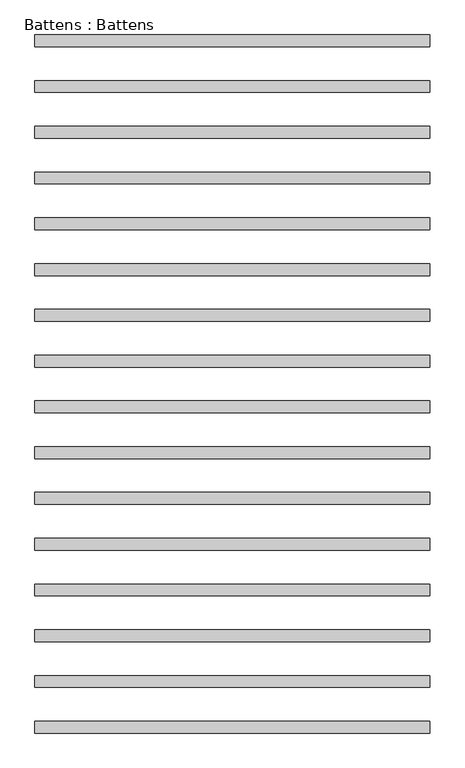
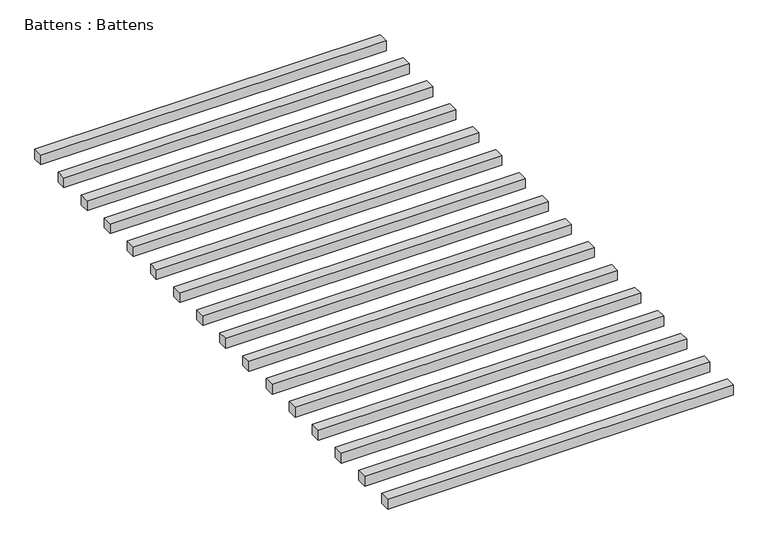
"""IFC4 building model written with IfcOpenShell, lengths in millimetres: proxy geometry, Battens : Battens."""

from ifc_helpers import new_model, si_unit, origin, origin_with_axes, place, context, project, spatial, polyline, outline, extrude, source, transform, mapped, element, save


def battens_battens_8fe84e2e(model_context):
    return source(origin(), model_context, "Body", "SweptSolid", [
        extrude(outline(polyline([(1337.0, -2305.0), (1337.0, -2345.0), (0.0, -2345.0), (0.0, -2305.0), (1337.0, -2305.0)])), origin_with_axes(), (0.0, 0.0, 1.0), 40.0),
        extrude(outline(polyline([(1337.0, -2150.0), (1337.0, -2190.0), (0.0, -2190.0), (0.0, -2150.0), (1337.0, -2150.0)])), origin_with_axes(), (0.0, 0.0, 1.0), 40.0),
        extrude(outline(polyline([(1337.0, -1995.0), (1337.0, -2035.0), (0.0, -2035.0), (0.0, -1995.0), (1337.0, -1995.0)])), origin_with_axes(), (0.0, 0.0, 1.0), 40.0),
        extrude(outline(polyline([(1337.0, -1840.0), (1337.0, -1880.0), (0.0, -1880.0), (0.0, -1840.0), (1337.0, -1840.0)])), origin_with_axes(), (0.0, 0.0, 1.0), 40.0),
        extrude(outline(polyline([(1337.0, -1685.0), (1337.0, -1725.0), (0.0, -1725.0), (0.0, -1685.0), (1337.0, -1685.0)])), origin_with_axes(), (0.0, 0.0, 1.0), 40.0),
        extrude(outline(polyline([(1337.0, -1530.0), (1337.0, -1570.0), (0.0, -1570.0), (0.0, -1530.0), (1337.0, -1530.0)])), origin_with_axes(), (0.0, 0.0, 1.0), 40.0),
        extrude(outline(polyline([(1337.0, -1375.0), (1337.0, -1415.0), (0.0, -1415.0), (0.0, -1375.0), (1337.0, -1375.0)])), origin_with_axes(), (0.0, 0.0, 1.0), 40.0),
        extrude(outline(polyline([(1337.0, -1220.0), (1337.0, -1260.0), (0.0, -1260.0), (0.0, -1220.0), (1337.0, -1220.0)])), origin_with_axes(), (0.0, 0.0, 1.0), 40.0),
        extrude(outline(polyline([(1337.0, -1065.0), (1337.0, -1105.0), (0.0, -1105.0), (0.0, -1065.0), (1337.0, -1065.0)])), origin_with_axes(), (0.0, 0.0, 1.0), 40.0),
        extrude(outline(polyline([(1337.0, -910.0), (1337.0, -950.0), (0.0, -950.0), (0.0, -910.0), (1337.0, -910.0)])), origin_with_axes(), (0.0, 0.0, 1.0), 40.0),
        extrude(outline(polyline([(1337.0, -755.0), (1337.0, -795.0), (0.0, -795.0), (0.0, -755.0), (1337.0, -755.0)])), origin_with_axes(), (0.0, 0.0, 1.0), 40.0),
        extrude(outline(polyline([(1337.0, -600.0), (1337.0, -640.0), (0.0, -640.0), (0.0, -600.0), (1337.0, -600.0)])), origin_with_axes(), (0.0, 0.0, 1.0), 40.0),
        extrude(outline(polyline([(1337.0, -445.0), (1337.0, -485.0), (0.0, -485.0), (0.0, -445.0), (1337.0, -445.0)])), origin_with_axes(), (0.0, 0.0, 1.0), 40.0),
        extrude(outline(polyline([(1337.0, -290.0), (1337.0, -330.0), (0.0, -330.0), (0.0, -290.0), (1337.0, -290.0)])), origin_with_axes(), (0.0, 0.0, 1.0), 40.0),
        extrude(outline(polyline([(1337.0, -135.0), (1337.0, -175.0), (0.0, -175.0), (0.0, -135.0), (1337.0, -135.0)])), origin_with_axes(), (0.0, 0.0, 1.0), 40.0),
        extrude(outline(polyline([(1337.0, 20.0), (1337.0, -20.0), (0.0, -20.0), (0.0, 20.0), (1337.0, 20.0)])), origin_with_axes(), (0.0, 0.0, 1.0), 40.0),
    ])


if __name__ == "__main__":
    model = new_model("IFC4")
    model_context = context("Model", 3, world=origin())
    ifc_project = project(units=[si_unit("LENGTHUNIT", "METRE", prefix="MILLI")], contexts=[model_context])
    site = spatial("IfcSite", under=ifc_project)
    building = spatial("IfcBuilding", under=site)
    placement = place(None, origin())
    battens_battens_shape = battens_battens_8fe84e2e(model_context)
    element("IfcBuildingElementProxy", 1, Name="Battens : Battens", ObjectType="Battens : Battens", at=placement, inside=building, context=model_context, shape_type="MappedRepresentation", body=[
        mapped(battens_battens_shape, transform((0.0, 0.0, 0.0), x_axis=(1.0, 0.0, 0.0), y_axis=(0.0, 1.0, 0.0), z_axis=(0.0, 0.0, 1.0))),
    ])
    save(model, "model.ifc")
